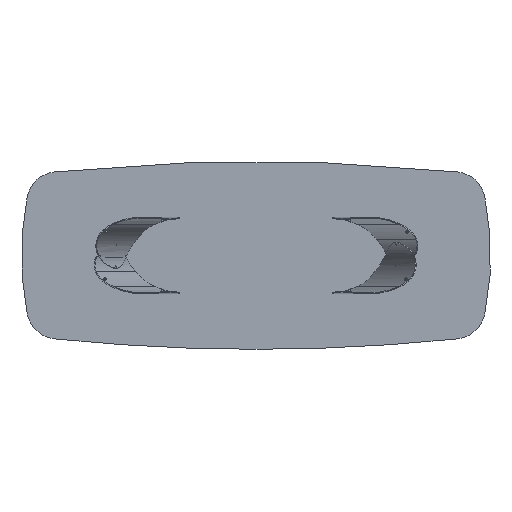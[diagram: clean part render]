
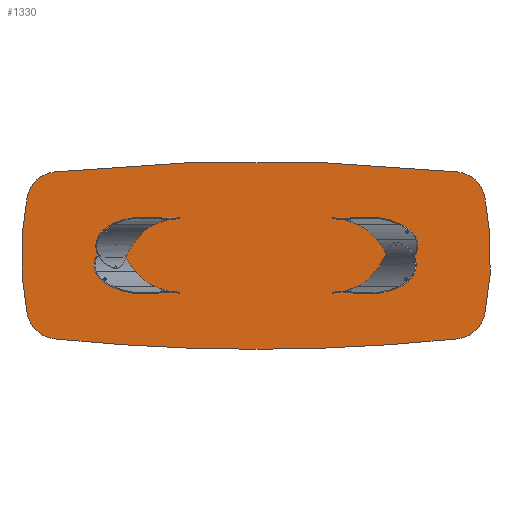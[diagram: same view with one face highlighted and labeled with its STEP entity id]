
A CAD part, front view. The second image highlights one B-rep face of the part: STEP entity #1330.
In plain terms, the highlighted planar face has unit normal (0, -1, 0).
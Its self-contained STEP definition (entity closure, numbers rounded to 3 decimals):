
#82 = EDGE_CURVE ( 'NONE', #5090, #10030, #3448, .T. ) ;
#284 = DIRECTION ( 'NONE',  ( 0., 0., 1. ) ) ;
#506 = DIRECTION ( 'NONE',  ( 0., 0., 1. ) ) ;
#704 = ORIENTED_EDGE ( 'NONE', *, *, #1560, .F. ) ;
#846 = DIRECTION ( 'NONE',  ( 0., 0., 1. ) ) ;
#891 = EDGE_CURVE ( 'NONE', #9777, #2917, #9471, .T. ) ;
#983 = EDGE_CURVE ( 'NONE', #5090, #4018, #10874, .T. ) ;
#1160 = CARTESIAN_POINT ( 'NONE',  ( -1266.747, 0., -334.597 ) ) ;
#1330 = ADVANCED_FACE ( 'NONE', ( #3500 ), #12212, .F. ) ;
#1430 = DIRECTION ( 'NONE',  ( 0., 0., 1. ) ) ;
#1498 = CARTESIAN_POINT ( 'NONE',  ( -1462.835, 0., -373.961 ) ) ;
#1560 = EDGE_CURVE ( 'NONE', #7617, #2917, #11084, .T. ) ;
#1605 = DIRECTION ( 'NONE',  ( 0., 1., 0. ) ) ;
#1641 = AXIS2_PLACEMENT_3D ( 'NONE', #2355, #4349, #6177 ) ;
#1684 = AXIS2_PLACEMENT_3D ( 'NONE', #10505, #8514, #12340 ) ;
#1692 = CARTESIAN_POINT ( 'NONE',  ( -1462.835, 0., 373.961 ) ) ;
#1826 = DIRECTION ( 'NONE',  ( 0., 1., 0. ) ) ;
#1913 = CARTESIAN_POINT ( 'NONE',  ( -1266.747, 0., 334.597 ) ) ;
#2086 = EDGE_CURVE ( 'NONE', #9793, #3864, #5866, .T. ) ;
#2203 = ORIENTED_EDGE ( 'NONE', *, *, #11913, .F. ) ;
#2355 = CARTESIAN_POINT ( 'NONE',  ( -400., 0., 0. ) ) ;
#2628 = CIRCLE ( 'NONE', #4036, 12500. ) ;
#2753 = CARTESIAN_POINT ( 'NONE',  ( 1287.344, 0., 533.533 ) ) ;
#2917 = VERTEX_POINT ( 'NONE', #11542 ) ;
#3116 = CARTESIAN_POINT ( 'NONE',  ( 1266.747, 0., 334.597 ) ) ;
#3211 = AXIS2_PLACEMENT_3D ( 'NONE', #4316, #1605, #506 ) ;
#3448 = CIRCLE ( 'NONE', #1641, 1900. ) ;
#3500 = FACE_OUTER_BOUND ( 'NONE', #5705, .T. ) ;
#3670 = AXIS2_PLACEMENT_3D ( 'NONE', #8481, #1826, #12306 ) ;
#3864 = VERTEX_POINT ( 'NONE', #1692 ) ;
#4018 = VERTEX_POINT ( 'NONE', #2753 ) ;
#4036 = AXIS2_PLACEMENT_3D ( 'NONE', #7394, #5567, #9394 ) ;
#4316 = CARTESIAN_POINT ( 'NONE',  ( 0., 0., -11900. ) ) ;
#4349 = DIRECTION ( 'NONE',  ( 0., 1., 0. ) ) ;
#4408 = ORIENTED_EDGE ( 'NONE', *, *, #2086, .T. ) ;
#4690 = CIRCLE ( 'NONE', #12316, 200. ) ;
#4990 = ORIENTED_EDGE ( 'NONE', *, *, #891, .T. ) ;
#5016 = ORIENTED_EDGE ( 'NONE', *, *, #983, .T. ) ;
#5068 = AXIS2_PLACEMENT_3D ( 'NONE', #1913, #10372, #846 ) ;
#5090 = VERTEX_POINT ( 'NONE', #7928 ) ;
#5567 = DIRECTION ( 'NONE',  ( 0., 1., 0. ) ) ;
#5705 = EDGE_LOOP ( 'NONE', ( #8637, #4408, #2203, #4990, #704, #6223, #7227, #7710, #5016 ) ) ;
#5866 = CIRCLE ( 'NONE', #5068, 200. ) ;
#6177 = DIRECTION ( 'NONE',  ( 0., 0., 1. ) ) ;
#6223 = ORIENTED_EDGE ( 'NONE', *, *, #9760, .F. ) ;
#6564 = CARTESIAN_POINT ( 'NONE',  ( -200., 0., 5950. ) ) ;
#6684 = CARTESIAN_POINT ( 'NONE',  ( 1287.344, 0., -533.533 ) ) ;
#7049 = DIRECTION ( 'NONE',  ( 0., -1., 0. ) ) ;
#7152 = DIRECTION ( 'NONE',  ( 0., -1., 0. ) ) ;
#7227 = ORIENTED_EDGE ( 'NONE', *, *, #12149, .T. ) ;
#7394 = CARTESIAN_POINT ( 'NONE',  ( 0., 0., 11900. ) ) ;
#7485 = CARTESIAN_POINT ( 'NONE',  ( 0., 0., -600. ) ) ;
#7515 = CIRCLE ( 'NONE', #1684, 1900. ) ;
#7521 = DIRECTION ( 'NONE',  ( 0., 1., 0. ) ) ;
#7617 = VERTEX_POINT ( 'NONE', #7485 ) ;
#7710 = ORIENTED_EDGE ( 'NONE', *, *, #82, .F. ) ;
#7928 = CARTESIAN_POINT ( 'NONE',  ( 1462.835, 0., 373.961 ) ) ;
#7994 = DIRECTION ( 'NONE',  ( 0., -1., 0. ) ) ;
#8056 = CARTESIAN_POINT ( 'NONE',  ( 1266.747, 0., -334.597 ) ) ;
#8233 = CIRCLE ( 'NONE', #3211, 12500. ) ;
#8325 = CARTESIAN_POINT ( 'NONE',  ( 1462.835, 0., -373.961 ) ) ;
#8481 = CARTESIAN_POINT ( 'NONE',  ( 0., 0., 11900. ) ) ;
#8514 = DIRECTION ( 'NONE',  ( 0., 1., 0. ) ) ;
#8637 = ORIENTED_EDGE ( 'NONE', *, *, #8765, .F. ) ;
#8765 = EDGE_CURVE ( 'NONE', #9793, #4018, #8233, .T. ) ;
#8960 = VERTEX_POINT ( 'NONE', #6684 ) ;
#9271 = AXIS2_PLACEMENT_3D ( 'NONE', #6564, #7521, #12028 ) ;
#9394 = DIRECTION ( 'NONE',  ( 0., 0., 1. ) ) ;
#9471 = CIRCLE ( 'NONE', #9662, 200. ) ;
#9662 = AXIS2_PLACEMENT_3D ( 'NONE', #1160, #7049, #9803 ) ;
#9760 = EDGE_CURVE ( 'NONE', #8960, #7617, #2628, .T. ) ;
#9777 = VERTEX_POINT ( 'NONE', #1498 ) ;
#9793 = VERTEX_POINT ( 'NONE', #10265 ) ;
#9803 = DIRECTION ( 'NONE',  ( 0., 0., 1. ) ) ;
#10030 = VERTEX_POINT ( 'NONE', #8325 ) ;
#10263 = AXIS2_PLACEMENT_3D ( 'NONE', #3116, #7152, #1430 ) ;
#10265 = CARTESIAN_POINT ( 'NONE',  ( -1287.344, 0., 533.533 ) ) ;
#10372 = DIRECTION ( 'NONE',  ( 0., -1., 0. ) ) ;
#10505 = CARTESIAN_POINT ( 'NONE',  ( 400., 0., 0. ) ) ;
#10874 = CIRCLE ( 'NONE', #10263, 200. ) ;
#11084 = CIRCLE ( 'NONE', #3670, 12500. ) ;
#11542 = CARTESIAN_POINT ( 'NONE',  ( -1287.344, 0., -533.533 ) ) ;
#11913 = EDGE_CURVE ( 'NONE', #9777, #3864, #7515, .T. ) ;
#12028 = DIRECTION ( 'NONE',  ( 0., 0., 1. ) ) ;
#12149 = EDGE_CURVE ( 'NONE', #8960, #10030, #4690, .T. ) ;
#12212 = PLANE ( 'NONE',  #9271 ) ;
#12306 = DIRECTION ( 'NONE',  ( 0., 0., 1. ) ) ;
#12316 = AXIS2_PLACEMENT_3D ( 'NONE', #8056, #7994, #284 ) ;
#12340 = DIRECTION ( 'NONE',  ( 0., 0., 1. ) ) ;
